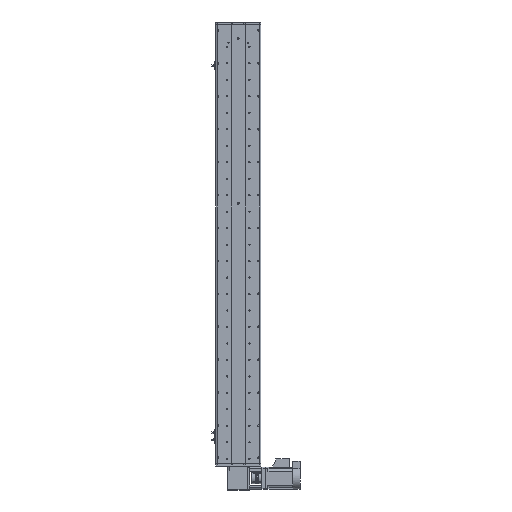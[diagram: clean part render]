
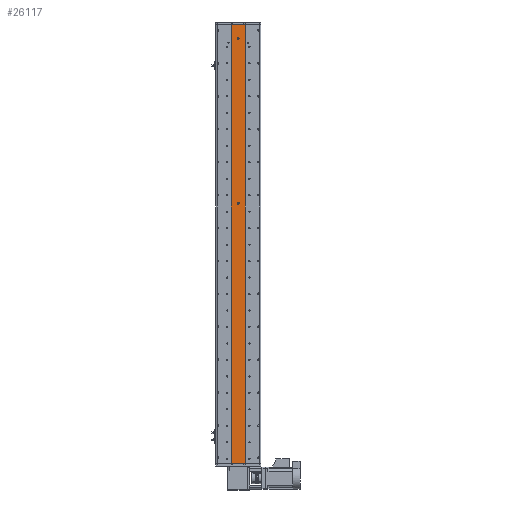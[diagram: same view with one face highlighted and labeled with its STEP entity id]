
A CAD part, front view. The second image highlights one B-rep face of the part: STEP entity #26117.
In plain terms, the highlighted planar face has unit normal (0, -1, 0).
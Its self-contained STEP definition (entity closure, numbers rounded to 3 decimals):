
#621 = ORIENTED_EDGE ( 'NONE', *, *, #24080, .T. ) ;
#689 = EDGE_LOOP ( 'NONE', ( #18918, #35828 ) ) ;
#1101 = DIRECTION ( 'NONE',  ( 0., 1., 0. ) ) ;
#2565 = ORIENTED_EDGE ( 'NONE', *, *, #20543, .F. ) ;
#2575 = LINE ( 'NONE', #16810, #32124 ) ;
#2887 = DIRECTION ( 'NONE',  ( 0., -1., 0. ) ) ;
#3672 = DIRECTION ( 'NONE',  ( 0., 0., -1. ) ) ;
#3990 = CARTESIAN_POINT ( 'NONE',  ( 25., 1., -798.5 ) ) ;
#5987 = CIRCLE ( 'NONE', #14499, 3. ) ;
#6089 = CARTESIAN_POINT ( 'NONE',  ( 0., 1., 748.5 ) ) ;
#6333 = CIRCLE ( 'NONE', #10643, 3. ) ;
#7119 = AXIS2_PLACEMENT_3D ( 'NONE', #21230, #1101, #29243 ) ;
#7916 = EDGE_CURVE ( 'NONE', #36425, #35004, #48170, .T. ) ;
#7960 = CARTESIAN_POINT ( 'NONE',  ( 0., 1., 151.5 ) ) ;
#8859 = ORIENTED_EDGE ( 'NONE', *, *, #14203, .T. ) ;
#8928 = FACE_OUTER_BOUND ( 'NONE', #14495, .T. ) ;
#9832 = CIRCLE ( 'NONE', #48642, 3. ) ;
#10178 = DIRECTION ( 'NONE',  ( 0., 0., -1. ) ) ;
#10643 = AXIS2_PLACEMENT_3D ( 'NONE', #6089, #34203, #10178 ) ;
#10681 = CARTESIAN_POINT ( 'NONE',  ( -25., 1., -798.5 ) ) ;
#13687 = VECTOR ( 'NONE', #20199, 1000. ) ;
#14203 = EDGE_CURVE ( 'NONE', #20079, #41256, #28227, .T. ) ;
#14495 = EDGE_LOOP ( 'NONE', ( #621, #27102, #2565, #8859 ) ) ;
#14499 = AXIS2_PLACEMENT_3D ( 'NONE', #26980, #2887, #31000 ) ;
#15084 = VERTEX_POINT ( 'NONE', #48172 ) ;
#15675 = DIRECTION ( 'NONE',  ( 0., 0., -1. ) ) ;
#15891 = AXIS2_PLACEMENT_3D ( 'NONE', #16222, #44230, #20238 ) ;
#16222 = CARTESIAN_POINT ( 'NONE',  ( 0., 1., 748.5 ) ) ;
#16245 = VECTOR ( 'NONE', #25224, 1000. ) ;
#16322 = CARTESIAN_POINT ( 'NONE',  ( 0., 1., 145.5 ) ) ;
#16810 = CARTESIAN_POINT ( 'NONE',  ( 25., 1., 798.5 ) ) ;
#17046 = PLANE ( 'NONE',  #7119 ) ;
#17702 = EDGE_LOOP ( 'NONE', ( #17754, #24005 ) ) ;
#17754 = ORIENTED_EDGE ( 'NONE', *, *, #24597, .F. ) ;
#18918 = ORIENTED_EDGE ( 'NONE', *, *, #25374, .F. ) ;
#19702 = FACE_BOUND ( 'NONE', #689, .T. ) ;
#20079 = VERTEX_POINT ( 'NONE', #28011 ) ;
#20199 = DIRECTION ( 'NONE',  ( 1., 0., 0. ) ) ;
#20238 = DIRECTION ( 'NONE',  ( 0., 0., -1. ) ) ;
#20543 = EDGE_CURVE ( 'NONE', #20079, #36425, #2575, .T. ) ;
#21193 = CARTESIAN_POINT ( 'NONE',  ( 25., 1., 798.5 ) ) ;
#21230 = CARTESIAN_POINT ( 'NONE',  ( 25., 1., 798.5 ) ) ;
#24005 = ORIENTED_EDGE ( 'NONE', *, *, #38118, .F. ) ;
#24080 = EDGE_CURVE ( 'NONE', #41256, #35004, #34996, .T. ) ;
#24597 = EDGE_CURVE ( 'NONE', #38819, #42433, #5987, .T. ) ;
#25224 = DIRECTION ( 'NONE',  ( 0., 0., -1. ) ) ;
#25374 = EDGE_CURVE ( 'NONE', #49709, #15084, #35454, .T. ) ;
#26117 = ADVANCED_FACE ( 'NONE', ( #39751, #19702, #8928 ), #17046, .F. ) ;
#26980 = CARTESIAN_POINT ( 'NONE',  ( 0., 1., 148.5 ) ) ;
#27102 = ORIENTED_EDGE ( 'NONE', *, *, #7916, .F. ) ;
#27754 = DIRECTION ( 'NONE',  ( 0., -1., 0. ) ) ;
#28011 = CARTESIAN_POINT ( 'NONE',  ( -25., 1., 798.5 ) ) ;
#28227 = LINE ( 'NONE', #39846, #48279 ) ;
#29243 = DIRECTION ( 'NONE',  ( 0., 0., 1. ) ) ;
#31000 = DIRECTION ( 'NONE',  ( 0., 0., -1. ) ) ;
#32124 = VECTOR ( 'NONE', #48825, 1000. ) ;
#33354 = CARTESIAN_POINT ( 'NONE',  ( 25., 1., 798.5 ) ) ;
#34203 = DIRECTION ( 'NONE',  ( 0., -1., 0. ) ) ;
#34996 = LINE ( 'NONE', #44194, #13687 ) ;
#35004 = VERTEX_POINT ( 'NONE', #3990 ) ;
#35454 = CIRCLE ( 'NONE', #15891, 3. ) ;
#35828 = ORIENTED_EDGE ( 'NONE', *, *, #43855, .F. ) ;
#36425 = VERTEX_POINT ( 'NONE', #33354 ) ;
#38118 = EDGE_CURVE ( 'NONE', #42433, #38819, #9832, .T. ) ;
#38819 = VERTEX_POINT ( 'NONE', #16322 ) ;
#39751 = FACE_BOUND ( 'NONE', #17702, .T. ) ;
#39846 = CARTESIAN_POINT ( 'NONE',  ( -25., 1., 798.5 ) ) ;
#41256 = VERTEX_POINT ( 'NONE', #10681 ) ;
#42433 = VERTEX_POINT ( 'NONE', #7960 ) ;
#43855 = EDGE_CURVE ( 'NONE', #15084, #49709, #6333, .T. ) ;
#44194 = CARTESIAN_POINT ( 'NONE',  ( 25., 1., -798.5 ) ) ;
#44230 = DIRECTION ( 'NONE',  ( 0., -1., 0. ) ) ;
#46601 = CARTESIAN_POINT ( 'NONE',  ( 0., 1., 745.5 ) ) ;
#48170 = LINE ( 'NONE', #21193, #16245 ) ;
#48172 = CARTESIAN_POINT ( 'NONE',  ( 0., 1., 751.5 ) ) ;
#48279 = VECTOR ( 'NONE', #15675, 1000. ) ;
#48642 = AXIS2_PLACEMENT_3D ( 'NONE', #51776, #27754, #3672 ) ;
#48825 = DIRECTION ( 'NONE',  ( 1., 0., 0. ) ) ;
#49709 = VERTEX_POINT ( 'NONE', #46601 ) ;
#51776 = CARTESIAN_POINT ( 'NONE',  ( 0., 1., 148.5 ) ) ;
